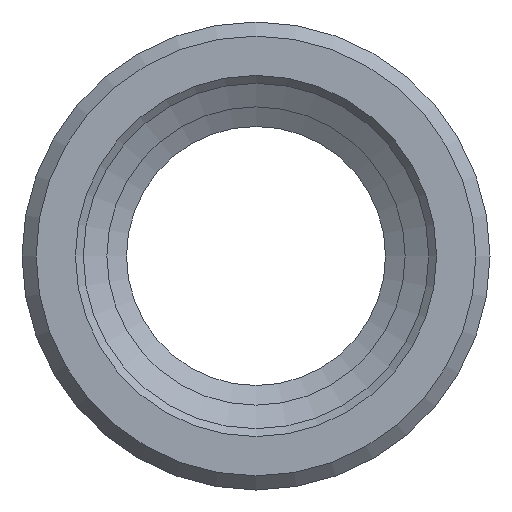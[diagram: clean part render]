
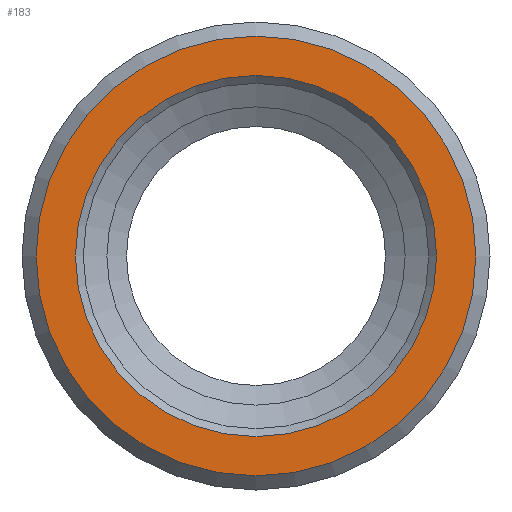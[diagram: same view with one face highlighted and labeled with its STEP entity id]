
A CAD part, left-side view. The second image highlights one B-rep face of the part: STEP entity #183.
In plain terms, the highlighted planar face has unit normal (-1, 0, 0).
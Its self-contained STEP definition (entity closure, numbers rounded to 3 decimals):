
#152=CARTESIAN_POINT('',(0.,23.0,0.));
#153=VERTEX_POINT('',#152);
#154=CARTESIAN_POINT('',(0.,0.,0.0));
#155=DIRECTION('',(-1.0,0.0,0.0));
#156=DIRECTION('',(0.0,-1.0,0.0));
#157=AXIS2_PLACEMENT_3D('',#154,#155,#156);
#158=CIRCLE('',#157,23.0);
#159=EDGE_CURVE('',#153,#153,#158,.T.);
#164=CARTESIAN_POINT('',(0.,25.904,0.0));
#165=DIRECTION('',(-1.0,0.0,0.0));
#166=DIRECTION('',(0.0,0.0,1.0));
#167=AXIS2_PLACEMENT_3D('',#164,#165,#166);
#168=PLANE('',#167);
#169=CARTESIAN_POINT('',(0.,28.007,0.));
#170=VERTEX_POINT('',#169);
#171=CARTESIAN_POINT('',(0.,0.,0.0));
#172=DIRECTION('',(1.0,0.0,0.0));
#173=DIRECTION('',(0.0,-1.0,0.0));
#174=AXIS2_PLACEMENT_3D('',#171,#172,#173);
#175=CIRCLE('',#174,28.007);
#176=EDGE_CURVE('',#170,#170,#175,.T.);
#177=ORIENTED_EDGE('',*,*,#176,.F.);
#178=EDGE_LOOP('',(#177));
#179=FACE_OUTER_BOUND('',#178,.T.);
#180=ORIENTED_EDGE('',*,*,#159,.F.);
#181=EDGE_LOOP('',(#180));
#182=FACE_BOUND('',#181,.T.);
#183=ADVANCED_FACE('',(#179,#182),#168,.T.);
